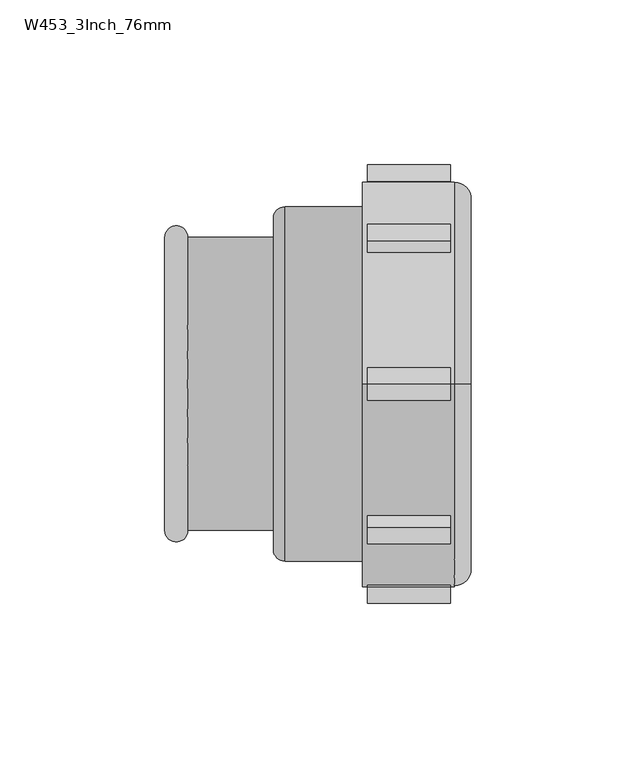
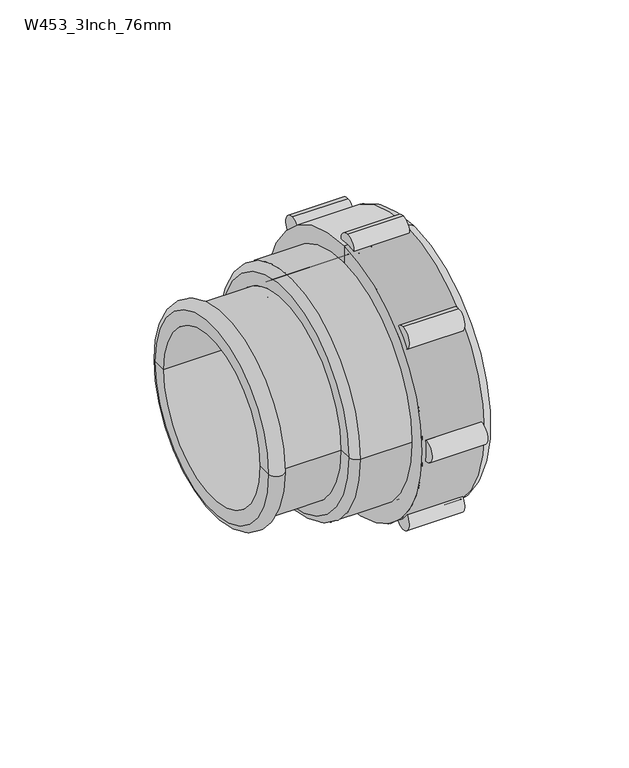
"""IFC4 building model written with IfcOpenShell, lengths in millimetres: pipe fitting geometry, Durapipe_PipeFitting_VulcatheneMechanical_GlassAdaptor_W45 : W453_3Inch_76mm."""

from ifc_helpers import new_model, si_unit, point, frame, frame_2d, origin, place, context, project, spatial, polyline, circle_curve, ellipse_curve, trimmed, segment, composite_curve, outline, extrude, source, transform, mapped, element, save
from ifc_brep_helpers import plane_surface, cylinder_surface, revolved_surface, advanced_brep


def w453_3inch_76mm_8e2f73c6(model_context):
    return source(origin(), model_context, "Body", "SolidModel", [
        advanced_brep(
        [(40.2, 35.9917352, 35.9917352), (40.2, 31.3248304, 31.3248304), (40.2, -31.3248304, -31.3248304), (40.2, -35.9917352, -35.9917352), (19.9, -32.8804653, -32.8804653), (19.9, 32.8804653, 32.8804653), (-4.8, 32.8804653, 32.8804653), (-4.8, -32.8804653, -32.8804653), (-4.8, -31.3248304, -31.3248304), (-4.8, 31.3248304, 31.3248304), (29.5, -31.3248304, -31.3248304), (29.5, 31.3248304, 31.3248304), (29.5, -30.6884343, -30.6884343), (29.5, 30.6884343, 30.6884343), (34.1, 31.3248304, 31.3248304), (34.1, 30.6884343, 30.6884343), (34.1, -30.6884343, -30.6884343), (34.1, -31.3248304, -31.3248304)],
        [
            (0, 1),
            (1, 2, circle_curve(frame((40.2, 0.0, 0.0), z_axis=(-1.0, 0.0, 0.0), x_axis=(0.0, -0.7071067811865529, -0.7071067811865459)), 44.3)),
            (2, 3),
            (3, 0, circle_curve(frame((40.2, 0.0, 0.0), z_axis=(1.0, 0.0, 0.0), x_axis=(0.0, -0.7071067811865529, -0.7071067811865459)), 50.9)),
            (2, 1, circle_curve(frame((40.2, 0.0, 0.0), z_axis=(-1.0, 0.0, 0.0), x_axis=(0.0, -0.7071067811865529, -0.7071067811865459)), 44.3)),
            (0, 3, circle_curve(frame((40.2, 0.0, 0.0), z_axis=(1.0, 0.0, 0.0), x_axis=(0.0, -0.7071067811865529, -0.7071067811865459)), 50.9)),
            (3, 4),
            (4, 5, circle_curve(frame((19.9, 0.0, 0.0), z_axis=(1.0, 0.0, 0.0), x_axis=(0.0, -0.7071067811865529, -0.7071067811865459)), 46.5)),
            (5, 0),
            (5, 4, circle_curve(frame((19.9, 0.0, 0.0), z_axis=(1.0, 0.0, 0.0), x_axis=(0.0, -0.7071067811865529, -0.7071067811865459)), 46.5)),
            (6, 5),
            (4, 7),
            (7, 6, circle_curve(frame((-4.8, 0.0, 0.0), z_axis=(1.0, 0.0, 0.0), x_axis=(0.0, -0.7071067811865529, -0.7071067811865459)), 46.5)),
            (6, 7, circle_curve(frame((-4.8, 0.0, 0.0), z_axis=(1.0, 0.0, 0.0), x_axis=(0.0, -0.7071067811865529, -0.7071067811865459)), 46.5)),
            (7, 8),
            (8, 9, circle_curve(frame((-4.8, 0.0, 0.0), z_axis=(1.0, 0.0, 0.0), x_axis=(0.0, -0.7071067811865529, -0.7071067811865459)), 44.3)),
            (9, 6),
            (9, 8, circle_curve(frame((-4.8, 0.0, 0.0), z_axis=(1.0, 0.0, 0.0), x_axis=(0.0, -0.7071067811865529, -0.7071067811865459)), 44.3)),
            (8, 10),
            (10, 11, circle_curve(frame((29.5, 0.0, 0.0), z_axis=(1.0, 0.0, 0.0), x_axis=(0.0, -0.7071067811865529, -0.7071067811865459)), 44.3)),
            (11, 9),
            (11, 10, circle_curve(frame((29.5, 0.0, 0.0), z_axis=(1.0, 0.0, 0.0), x_axis=(0.0, -0.7071067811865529, -0.7071067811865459)), 44.3)),
            (10, 12),
            (12, 13, circle_curve(frame((29.5, 0.0, 0.0), z_axis=(1.0, 0.0, 0.0), x_axis=(0.0, -0.7071067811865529, -0.7071067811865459)), 43.4)),
            (13, 11),
            (13, 12, circle_curve(frame((29.5, 0.0, 0.0), z_axis=(1.0, 0.0, 0.0), x_axis=(0.0, -0.7071067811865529, -0.7071067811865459)), 43.4)),
            (14, 15),
            (15, 16, circle_curve(frame((34.1, 0.0, 0.0), z_axis=(-1.0, 0.0, 0.0), x_axis=(0.0, -0.7071067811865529, -0.7071067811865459)), 43.4)),
            (16, 17),
            (17, 14, circle_curve(frame((34.1, 0.0, 0.0), z_axis=(1.0, 0.0, 0.0), x_axis=(0.0, -0.7071067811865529, -0.7071067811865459)), 44.3)),
            (16, 15, circle_curve(frame((34.1, 0.0, 0.0), z_axis=(-1.0, 0.0, 0.0), x_axis=(0.0, -0.7071067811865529, -0.7071067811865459)), 43.4)),
            (14, 17, circle_curve(frame((34.1, 0.0, 0.0), z_axis=(1.0, 0.0, 0.0), x_axis=(0.0, -0.7071067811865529, -0.7071067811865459)), 44.3)),
            (1, 14),
            (17, 2),
            (12, 16),
            (15, 13),
        ],
        [
            plane_surface(frame((40.2, 0.0, 0.0), z_axis=(1.0, 0.0, 0.0), x_axis=(0.0, -0.707106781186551, -0.707106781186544))),
            revolved_surface(polyline([(40.2, -35.9917352, -35.9917352), (19.9, -32.8804653, -32.8804653)]), (45.2, 0.0, 0.0), (-1.0000000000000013, 0.0, 0.0)),
            cylinder_surface(frame((-6.8706557, 0.0, 0.0), z_axis=(-1.0000000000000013, 0.0, 0.0), x_axis=(0.0, -0.7071067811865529, -0.7071067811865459)), 46.5),
            plane_surface(frame((-4.8, 0.0, 0.0), z_axis=(-1.0, 0.0, 0.0), x_axis=(0.0, -0.707106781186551, -0.707106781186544))),
            revolved_surface(polyline([(-4.799999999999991, -31.324830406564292, -31.324830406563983), (29.5000000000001, -31.324830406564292, -31.324830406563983)]), (-8.292991, 0.0, 0.0), (-1.0000000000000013, 0.0, 0.0)),
            plane_surface(frame((29.5, 0.0, 0.0), z_axis=(-1.0, 0.0, 0.0), x_axis=(0.0, -0.707106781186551, -0.707106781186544))),
            plane_surface(frame((34.1, 0.0, 0.0), z_axis=(1.0, 0.0, 0.0), x_axis=(0.0, -0.707106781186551, -0.707106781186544))),
            revolved_surface(polyline([(34.09999999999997, -31.324830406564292, -31.324830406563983), (40.19999999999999, -31.324830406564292, -31.324830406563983)]), (45.2, 0.0, 0.0), (-1.0000000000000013, 0.0, 0.0)),
            revolved_surface(polyline([(29.499999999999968, -30.688434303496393, -30.68843430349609), (34.09999999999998, -30.688434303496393, -30.68843430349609)]), (41.7661924, 0.0, 0.0), (-1.0000000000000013, 0.0, 0.0)),
        ],
        [
            (0, [[1, 2, 3, 4]]),
            (0, [[5, -1, 6, -3]]),
            (1, [[7, 8, 9, -4]]),
            (1, [[-9, 10, -7, -6]]),
            (2, [[11, -8, 12, 13]]),
            (2, [[-10, -11, 14, -12]]),
            (3, [[15, 16, 17, -13]]),
            (3, [[-17, 18, -15, -14]]),
            (4, [[-16, 19, 20, 21]]),
            (4, [[22, -19, -18, -21]]),
            (5, [[23, 24, 25, -20]]),
            (5, [[-25, 26, -23, -22]]),
            (6, [[27, 28, 29, 30]]),
            (6, [[-29, 31, -27, 32]]),
            (7, [[33, -30, 34, -2]]),
            (7, [[-34, -32, -33, -5]]),
            (8, [[-24, 35, -28, 36]]),
            (8, [[-31, -35, -26, -36]]),
        ],
    ),
        advanced_brep(
        [(13.5, 0.0, 61.5), (41.5, 0.0, 61.5), (41.5, 0.0, -61.5), (13.5, 0.0, -61.5), (13.5, 0.0, 53.0), (13.5, 0.0, -53.0), (46.5, 0.0, 56.5), (46.5, 0.0, 45.0), (46.5, 0.0, -45.0), (46.5, 0.0, -56.5), (40.2, 0.0, 53.0), (40.2, 0.0, -53.0), (40.2, 0.0, 45.0), (40.2, 0.0, -45.0)],
        [
            (0, 1),
            (1, 2, circle_curve(frame((41.5, 0.0, 0.0), z_axis=(-1.0, 0.0, 0.0), x_axis=(0.0, 0.0, -1.0000000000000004)), 61.5)),
            (2, 3),
            (3, 0, circle_curve(frame((13.5, 0.0, 0.0), z_axis=(1.0, 0.0, 0.0), x_axis=(0.0, 0.0, -1.0000000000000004)), 61.5)),
            (2, 1, circle_curve(frame((41.5, 0.0, 0.0), z_axis=(-1.0, 0.0, 0.0), x_axis=(0.0, 0.0, -1.0000000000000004)), 61.5)),
            (0, 3, circle_curve(frame((13.5, 0.0, 0.0), z_axis=(1.0, 0.0, 0.0), x_axis=(0.0, 0.0, -1.0000000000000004)), 61.5)),
            (4, 0),
            (3, 5),
            (5, 4, circle_curve(frame((13.5, 0.0, 0.0), z_axis=(1.0, 0.0, 0.0), x_axis=(0.0, 0.0, -1.0000000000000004)), 53.0)),
            (4, 5, circle_curve(frame((13.5, 0.0, 0.0), z_axis=(1.0, 0.0, 0.0), x_axis=(0.0, 0.0, -1.0000000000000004)), 53.0)),
            (6, 7),
            (7, 8, circle_curve(frame((46.5, 0.0, 0.0), z_axis=(-1.0, 0.0, 0.0), x_axis=(0.0, 0.0, -1.0000000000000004)), 45.0)),
            (8, 9),
            (9, 6, circle_curve(frame((46.5, 0.0, 0.0), z_axis=(1.0, 0.0, 0.0), x_axis=(0.0, 0.0, -1.0000000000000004)), 56.5)),
            (8, 7, circle_curve(frame((46.5, 0.0, 0.0), z_axis=(-1.0, 0.0, 0.0), x_axis=(0.0, 0.0, -1.0000000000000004)), 45.0)),
            (6, 9, circle_curve(frame((46.5, 0.0, 0.0), z_axis=(1.0, 0.0, 0.0), x_axis=(0.0, 0.0, -1.0000000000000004)), 56.5)),
            (1, 6, circle_curve(frame((41.5, 0.0, 56.5), z_axis=(0.0, 1.0000000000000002, 0.0), x_axis=(1.0000000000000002, 0.0, 0.0)), 5.0)),
            (9, 2, circle_curve(frame((41.5, 0.0, -56.5), z_axis=(0.0, 1.0000000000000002, 0.0), x_axis=(1.0000000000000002, 0.0, 0.0)), 5.0)),
            (10, 4),
            (5, 11),
            (11, 10, circle_curve(frame((40.2, 0.0, 0.0), z_axis=(1.0, 0.0, 0.0), x_axis=(0.0, 0.0, -1.0000000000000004)), 53.0)),
            (10, 11, circle_curve(frame((40.2, 0.0, 0.0), z_axis=(1.0, 0.0, 0.0), x_axis=(0.0, 0.0, -1.0000000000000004)), 53.0)),
            (12, 10),
            (11, 13),
            (13, 12, circle_curve(frame((40.2, 0.0, 0.0), z_axis=(1.0, 0.0, 0.0), x_axis=(0.0, 0.0, -1.0000000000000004)), 45.0)),
            (12, 13, circle_curve(frame((40.2, 0.0, 0.0), z_axis=(1.0, 0.0, 0.0), x_axis=(0.0, 0.0, -1.0000000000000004)), 45.0)),
            (7, 12),
            (13, 8),
        ],
        [
            cylinder_surface(frame((1607.3018184, 0.0, 0.0), z_axis=(-1.0000000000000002, 0.0, 0.0), x_axis=(0.0, 0.0, -1.0000000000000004)), 61.5),
            plane_surface(frame((13.5, 0.0, 0.0), z_axis=(-1.0, 0.0, 0.0), x_axis=(0.0, 0.0, -1.0))),
            plane_surface(frame((46.5, 0.0, 0.0), z_axis=(1.0, 0.0, 0.0), x_axis=(0.0, 0.0, -1.0))),
            revolved_surface(trimmed(ellipse_curve(frame((41.5, 0.0, -56.5), z_axis=(0.0, 1.0000000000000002, 0.0), x_axis=(1.0000000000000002, 0.0, 0.0)), 5.0, 5.0), [point((46.5, 0.0, -56.5))], [point((41.5, 0.0, -61.5))], True, "CARTESIAN"), (1607.3018184, 0.0, 0.0), (-1.0000000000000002, 0.0, 0.0)),
            revolved_surface(polyline([(13.49999999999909, 0.0, -53.00000000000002), (40.199999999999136, 0.0, -53.00000000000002)]), (1607.3018184, 0.0, 0.0), (-1.0000000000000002, 0.0, 0.0)),
            plane_surface(frame((40.2, 0.0, 0.0), z_axis=(-1.0, 0.0, 0.0), x_axis=(0.0, 0.0, -1.0))),
            revolved_surface(polyline([(40.199999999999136, 0.0, -45.00000000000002), (46.49999999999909, 0.0, -45.00000000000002)]), (1607.3018184, 0.0, 0.0), (-1.0000000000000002, 0.0, 0.0)),
        ],
        [
            (0, [[1, 2, 3, 4]]),
            (0, [[-3, 5, -1, 6]]),
            (1, [[7, -4, 8, 9]]),
            (1, [[-8, -6, -7, 10]]),
            (2, [[11, 12, 13, 14]]),
            (2, [[-13, 15, -11, 16]]),
            (3, [[17, -14, 18, -2]]),
            (3, [[-18, -16, -17, -5]]),
            (4, [[19, -9, 20, 21]]),
            (4, [[-20, -10, -19, 22]]),
            (5, [[23, -21, 24, 25]]),
            (5, [[-24, -22, -23, 26]]),
            (6, [[27, -25, 28, -12]]),
            (6, [[-28, -26, -27, -15]]),
        ],
    ),
        extrude(outline(composite_curve([segment(trimmed(circle_curve(frame_2d((-61.5, 0.0)), 5.0), [point((-61.5, 5.0))], [point((-61.5, -5.0))], False, "CARTESIAN"), True, "CONTINUOUS"), segment(trimmed(circle_curve(frame_2d((-61.5, 0.0)), 5.0), [point((-61.5, -5.0))], [point((-61.5, 5.0))], False, "CARTESIAN"), True, "CONTINUOUS")], self_intersect=False)), frame((15.0, 0.0, 0.0), z_axis=(1.0, 0.0, 0.0), x_axis=(0.0, 1.0, 0.0)), (0.0, 0.0, 1.0), 25.2),
        extrude(outline(composite_curve([segment(trimmed(circle_curve(frame_2d((-43.487067, -43.487067)), 5.0), [point((-43.487067, -38.487067))], [point((-43.487067, -48.487067))], False, "CARTESIAN"), True, "CONTINUOUS"), segment(trimmed(circle_curve(frame_2d((-43.487067, -43.487067)), 5.0), [point((-43.487067, -48.487067))], [point((-43.487067, -38.487067))], False, "CARTESIAN"), True, "CONTINUOUS")], self_intersect=False)), frame((15.0, 0.0, 0.0), z_axis=(1.0, 0.0, 0.0), x_axis=(0.0, 1.0, 0.0)), (0.0, 0.0, 1.0), 25.2),
        extrude(outline(composite_curve([segment(trimmed(circle_curve(frame_2d((0.0, -61.5)), 5.0), [point((0.0, -56.5))], [point((0.0, -66.5))], False, "CARTESIAN"), True, "CONTINUOUS"), segment(trimmed(circle_curve(frame_2d((0.0, -61.5)), 5.0), [point((0.0, -66.5))], [point((0.0, -56.5))], False, "CARTESIAN"), True, "CONTINUOUS")], self_intersect=False)), frame((15.0, 0.0, 0.0), z_axis=(1.0, 0.0, 0.0), x_axis=(0.0, 1.0, 0.0)), (0.0, 0.0, 1.0), 25.2),
        extrude(outline(composite_curve([segment(trimmed(circle_curve(frame_2d((43.487067, -43.487067)), 5.0), [point((43.487067, -38.487067))], [point((43.487067, -48.487067))], False, "CARTESIAN"), True, "CONTINUOUS"), segment(trimmed(circle_curve(frame_2d((43.487067, -43.487067)), 5.0), [point((43.487067, -48.487067))], [point((43.487067, -38.487067))], False, "CARTESIAN"), True, "CONTINUOUS")], self_intersect=False)), frame((15.0, 0.0, 0.0), z_axis=(1.0, 0.0, 0.0), x_axis=(0.0, 1.0, 0.0)), (0.0, 0.0, 1.0), 25.2),
        extrude(outline(composite_curve([segment(trimmed(circle_curve(frame_2d((61.5, 0.0)), 5.0), [point((61.5, 5.0))], [point((61.5, -5.0))], False, "CARTESIAN"), True, "CONTINUOUS"), segment(trimmed(circle_curve(frame_2d((61.5, 0.0)), 5.0), [point((61.5, -5.0))], [point((61.5, 5.0))], False, "CARTESIAN"), True, "CONTINUOUS")], self_intersect=False)), frame((15.0, 0.0, 0.0), z_axis=(1.0, 0.0, 0.0), x_axis=(0.0, 1.0, 0.0)), (0.0, 0.0, 1.0), 25.2),
        extrude(outline(composite_curve([segment(trimmed(circle_curve(frame_2d((43.487067, 43.487067)), 5.0), [point((43.487067, 48.487067))], [point((43.487067, 38.487067))], False, "CARTESIAN"), True, "CONTINUOUS"), segment(trimmed(circle_curve(frame_2d((43.487067, 43.487067)), 5.0), [point((43.487067, 38.487067))], [point((43.487067, 48.487067))], False, "CARTESIAN"), True, "CONTINUOUS")], self_intersect=False)), frame((15.0, 0.0, 0.0), z_axis=(1.0, 0.0, 0.0), x_axis=(0.0, 1.0, 0.0)), (0.0, 0.0, 1.0), 25.2),
        extrude(outline(composite_curve([segment(trimmed(circle_curve(frame_2d((0.0, 61.5)), 5.0), [point((0.0, 66.5))], [point((0.0, 56.5))], False, "CARTESIAN"), True, "CONTINUOUS"), segment(trimmed(circle_curve(frame_2d((0.0, 61.5)), 5.0), [point((0.0, 56.5))], [point((0.0, 66.5))], False, "CARTESIAN"), True, "CONTINUOUS")], self_intersect=False)), frame((15.0, 0.0, 0.0), z_axis=(1.0, 0.0, 0.0), x_axis=(0.0, 1.0, 0.0)), (0.0, 0.0, 1.0), 25.2),
        extrude(outline(composite_curve([segment(trimmed(circle_curve(frame_2d((-43.487067, 43.487067)), 5.0), [point((-43.487067, 48.487067))], [point((-43.487067, 38.487067))], False, "CARTESIAN"), True, "CONTINUOUS"), segment(trimmed(circle_curve(frame_2d((-43.487067, 43.487067)), 5.0), [point((-43.487067, 38.487067))], [point((-43.487067, 48.487067))], False, "CARTESIAN"), True, "CONTINUOUS")], self_intersect=False)), frame((15.0, 0.0, 0.0), z_axis=(1.0, 0.0, 0.0), x_axis=(0.0, 1.0, 0.0)), (0.0, 0.0, 1.0), 25.2),
        advanced_brep(
        [(-10.0, -53.75, 0.0), (-10.0, 53.75, 0.0), (40.2, 53.75, 0.0), (40.2, -53.75, 0.0), (-13.5, -44.45, 0.0), (-13.5, 44.45, 0.0), (-13.5, 50.25, 0.0), (-13.5, -50.25, 0.0), (-39.5, -44.45, 0.0), (-39.5, 44.45, 0.0), (-46.5, -38.1, 0.0), (-46.5, 38.1, 0.0), (-46.5, 44.45, 0.0), (-46.5, -44.45, 0.0), (-8.4, -38.1, 0.0), (-8.4, 38.1, 0.0), (-8.4, -47.9, 0.0), (-8.4, 47.9, 0.0), (40.2, -47.9, 0.0), (40.2, 47.9, 0.0)],
        [
            (0, 1, circle_curve(frame((-10.0, 0.0, 0.0), z_axis=(1.0, 0.0, 0.0), x_axis=(0.0, 1.0, 0.0)), 53.75)),
            (1, 2),
            (2, 3, circle_curve(frame((40.2, 0.0, 0.0), z_axis=(-1.0, 0.0, 0.0), x_axis=(0.0, 1.0, 0.0)), 53.75)),
            (3, 0),
            (1, 0, circle_curve(frame((-10.0, 0.0, 0.0), z_axis=(1.0, 0.0, 0.0), x_axis=(0.0, 1.0, 0.0)), 53.75)),
            (3, 2, circle_curve(frame((40.2, 0.0, 0.0), z_axis=(-1.0, 0.0, 0.0), x_axis=(0.0, 1.0, 0.0)), 53.75)),
            (4, 5, circle_curve(frame((-13.5, 0.0, 0.0), z_axis=(1.0, 0.0, 0.0), x_axis=(0.0, 1.0, 0.0)), 44.45)),
            (5, 6),
            (6, 7, circle_curve(frame((-13.5, 0.0, 0.0), z_axis=(-1.0, 0.0, 0.0), x_axis=(0.0, 1.0, 0.0)), 50.25)),
            (7, 4),
            (5, 4, circle_curve(frame((-13.5, 0.0, 0.0), z_axis=(1.0, 0.0, 0.0), x_axis=(0.0, 1.0, 0.0)), 44.45)),
            (7, 6, circle_curve(frame((-13.5, 0.0, 0.0), z_axis=(-1.0, 0.0, 0.0), x_axis=(0.0, 1.0, 0.0)), 50.25)),
            (8, 9, circle_curve(frame((-39.5, 0.0, 0.0), z_axis=(1.0, 0.0, 0.0), x_axis=(0.0, 1.0, 0.0)), 44.45)),
            (9, 5),
            (4, 8),
            (9, 8, circle_curve(frame((-39.5, 0.0, 0.0), z_axis=(1.0, 0.0, 0.0), x_axis=(0.0, 1.0, 0.0)), 44.45)),
            (10, 11, circle_curve(frame((-46.5, 0.0, 0.0), z_axis=(1.0, 0.0, 0.0), x_axis=(0.0, 1.0, 0.0)), 38.1)),
            (11, 12),
            (12, 13, circle_curve(frame((-46.5, 0.0, 0.0), z_axis=(-1.0, 0.0, 0.0), x_axis=(0.0, 1.0, 0.0)), 44.45)),
            (13, 10),
            (11, 10, circle_curve(frame((-46.5, 0.0, 0.0), z_axis=(1.0, 0.0, 0.0), x_axis=(0.0, 1.0, 0.0)), 38.1)),
            (13, 12, circle_curve(frame((-46.5, 0.0, 0.0), z_axis=(-1.0, 0.0, 0.0), x_axis=(0.0, 1.0, 0.0)), 44.45)),
            (14, 15, circle_curve(frame((-8.4, 0.0, 0.0), z_axis=(1.0, 0.0, 0.0), x_axis=(0.0, 1.0, 0.0)), 38.1)),
            (15, 11),
            (10, 14),
            (15, 14, circle_curve(frame((-8.4, 0.0, 0.0), z_axis=(1.0, 0.0, 0.0), x_axis=(0.0, 1.0, 0.0)), 38.1)),
            (16, 17, circle_curve(frame((-8.4, 0.0, 0.0), z_axis=(1.0, 0.0, 0.0), x_axis=(0.0, 1.0, 0.0)), 47.9)),
            (17, 15),
            (14, 16),
            (17, 16, circle_curve(frame((-8.4, 0.0, 0.0), z_axis=(1.0, 0.0, 0.0), x_axis=(0.0, 1.0, 0.0)), 47.9)),
            (18, 19, circle_curve(frame((40.2, 0.0, 0.0), z_axis=(1.0, 0.0, 0.0), x_axis=(0.0, 1.0, 0.0)), 47.9)),
            (19, 17),
            (16, 18),
            (19, 18, circle_curve(frame((40.2, 0.0, 0.0), z_axis=(1.0, 0.0, 0.0), x_axis=(0.0, 1.0, 0.0)), 47.9)),
            (2, 19),
            (18, 3),
            (12, 9, circle_curve(frame((-43.0, 44.45, 0.0), z_axis=(0.0, 0.0, -1.0), x_axis=(1.0, 0.0, 0.0)), 3.5)),
            (8, 13, circle_curve(frame((-43.0, -44.45, 0.0), z_axis=(0.0, 0.0, -1.0), x_axis=(1.0, 0.0, 0.0)), 3.5)),
            (6, 1, circle_curve(frame((-10.0, 50.25, 0.0), z_axis=(0.0, 0.0, -1.0), x_axis=(1.0, 0.0, 0.0)), 3.5)),
            (0, 7, circle_curve(frame((-10.0, -50.25, 0.0), z_axis=(0.0, 0.0, -1.0), x_axis=(1.0, 0.0, 0.0)), 3.5)),
        ],
        [
            cylinder_surface(frame((-36.032225, 0.0, 0.0), z_axis=(-1.0, 0.0, 0.0), x_axis=(0.0, 1.0, 0.0)), 53.75),
            plane_surface(frame((-13.5, 0.0, 0.0), z_axis=(-1.0, 0.0, 0.0), x_axis=(0.0, 1.0, 0.0))),
            cylinder_surface(frame((-36.032225, 0.0, 0.0), z_axis=(-1.0, 0.0, 0.0), x_axis=(0.0, 1.0, 0.0)), 44.45),
            plane_surface(frame((-46.5, 0.0, 0.0), z_axis=(-1.0, 0.0, 0.0), x_axis=(0.0, 1.0, 0.0))),
            revolved_surface(polyline([(-46.5, 38.1, 0.0), (-8.399999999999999, 38.1, 0.0)]), (-36.032225, 0.0, 0.0), (-1.0, 0.0, 0.0)),
            plane_surface(frame((-8.4, 0.0, 0.0), z_axis=(1.0, 0.0, 0.0), x_axis=(0.0, 1.0, 0.0))),
            revolved_surface(polyline([(-8.399999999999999, 47.9, 0.0), (40.2, 47.9, 0.0)]), (-36.032225, 0.0, 0.0), (-1.0, 0.0, 0.0)),
            plane_surface(frame((40.2, 0.0, 0.0), z_axis=(1.0, 0.0, 0.0), x_axis=(0.0, 1.0, 0.0))),
            revolved_surface(trimmed(ellipse_curve(frame((-43.0, 44.45, 0.0), z_axis=(0.0, 0.0, 1.0), x_axis=(1.0, 0.0, 0.0)), 3.5, 3.5), [point((-39.5, 44.45, 0.0))], [point((-46.5, 44.45, 0.0))], True, "CARTESIAN"), (-36.032225, 0.0, 0.0), (-1.0, 0.0, 0.0)),
            revolved_surface(trimmed(ellipse_curve(frame((-10.0, 50.25, 0.0), z_axis=(0.0, 0.0, 1.0), x_axis=(1.0, 0.0, 0.0)), 3.5, 3.5), [point((-10.0, 53.75, 0.0))], [point((-13.5, 50.25, 0.0))], True, "CARTESIAN"), (-36.032225, 0.0, 0.0), (-1.0, 0.0, 0.0)),
        ],
        [
            (0, [[1, 2, 3, 4]]),
            (0, [[5, -4, 6, -2]]),
            (1, [[7, 8, 9, 10]]),
            (1, [[11, -10, 12, -8]]),
            (2, [[13, 14, -7, 15]]),
            (2, [[16, -15, -11, -14]]),
            (3, [[17, 18, 19, 20]]),
            (3, [[21, -20, 22, -18]]),
            (4, [[23, 24, -17, 25]]),
            (4, [[26, -25, -21, -24]]),
            (5, [[27, 28, -23, 29]]),
            (5, [[30, -29, -26, -28]]),
            (6, [[31, 32, -27, 33]]),
            (6, [[34, -33, -30, -32]]),
            (7, [[-3, 35, -31, 36]]),
            (7, [[-6, -36, -34, -35]]),
            (8, [[-19, 37, -13, 38]]),
            (8, [[-22, -38, -16, -37]]),
            (9, [[-9, 39, -1, 40]]),
            (9, [[-12, -40, -5, -39]]),
        ],
    ),
    ])


if __name__ == "__main__":
    model = new_model("IFC4")
    model_context = context("Model", 3, world=origin())
    ifc_project = project(units=[si_unit("LENGTHUNIT", "METRE", prefix="MILLI")], contexts=[model_context])
    site = spatial("IfcSite", under=ifc_project)
    building = spatial("IfcBuilding", under=site)
    placement = place(None, origin())
    w453_3inch_76mm_shape = w453_3inch_76mm_8e2f73c6(model_context)
    element("IfcPipeFitting", 1, ObjectType="Durapipe_PipeFitting_VulcatheneMechanical_GlassAdaptor_W45 : W453_3Inch_76mm", at=placement, inside=building, context=model_context, shape_type="MappedRepresentation", body=[
        mapped(w453_3inch_76mm_shape, transform((0.0, 0.0, 0.0), x_axis=(1.0, 0.0, 0.0), y_axis=(0.0, 1.0, 0.0), z_axis=(0.0, 0.0, 1.0))),
    ])
    save(model, "model.ifc")
